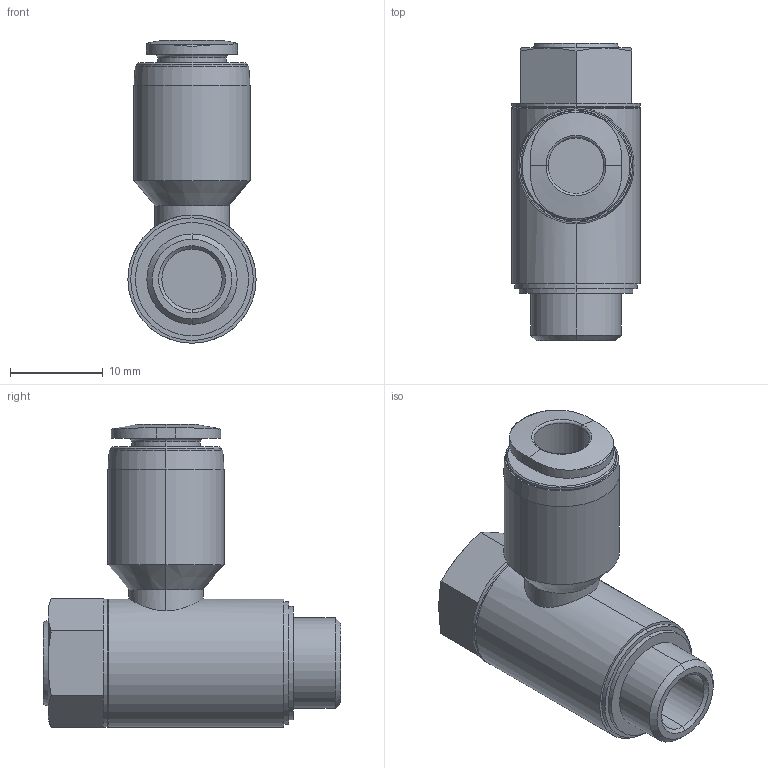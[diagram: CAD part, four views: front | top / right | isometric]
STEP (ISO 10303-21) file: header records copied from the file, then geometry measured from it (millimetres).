
FILE_DESCRIPTION (( 'STEP AP203' ), '1' );
FILE_NAME ('14010005.STEP', '2016-11-16T16:44:46', ( '' ), ( '' ), 'SwSTEP 2.0', 'SolidWorks 2015', '' );
FILE_SCHEMA (( 'CONFIG_CONTROL_DESIGN' ));
Length unit declared in the file: millimetre
Products named in the file (1): 14010005
Bounding box: 13.8 x 32 x 32.62 mm (x, y, z)
Volume: 5459 mm3; surface area: 2930.9 mm2
Topology: 1 solids, 1 shells, 96 faces, 209 edges, 125 vertices
Faces by surface type: plane 37, cone 27, cylinder 26, torus 6
Entity records: 2821 total; most frequent: CARTESIAN_POINT 629, DIRECTION 468, ORIENTED_EDGE 418, EDGE_CURVE 209, AXIS2_PLACEMENT_3D 190, VERTEX_POINT 125, EDGE_LOOP 106, ADVANCED_FACE 96
